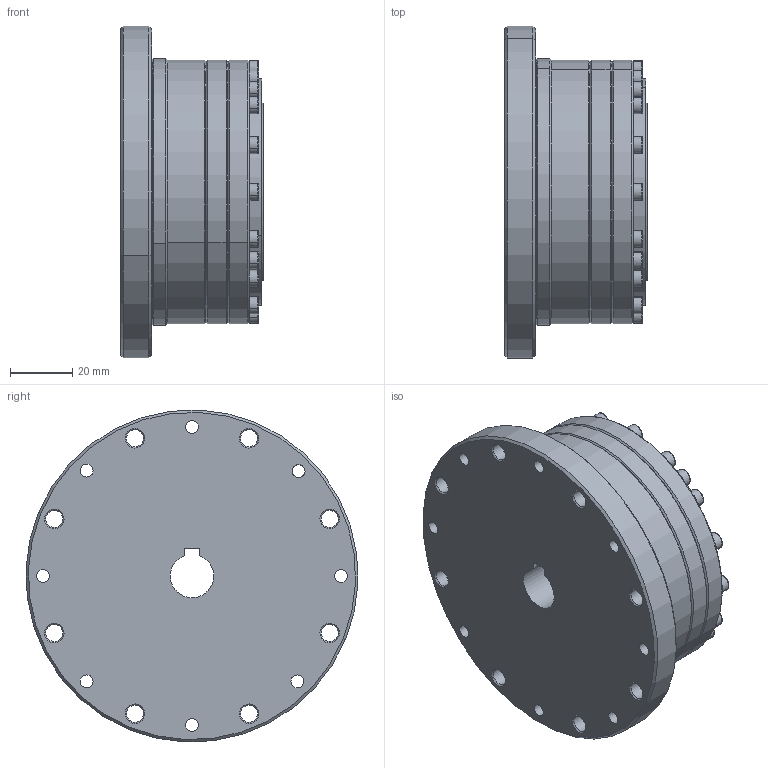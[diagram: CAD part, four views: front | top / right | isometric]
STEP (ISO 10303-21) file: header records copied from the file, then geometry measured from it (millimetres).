
FILE_DESCRIPTION(('STEP AP214'),'1');
FILE_NAME('cctmp_E27DC68C-0DAD-48FF-87FD-D8D48EA740E9_2025_03_06_11_18_22_0235_44768..stp','2025-03-06T10:18:22',('HIWIN GmbH'),('CADClick - www.CADClick.com'),'Spatial InterOp 3D',' ','unknown authorization');
FILE_SCHEMA(('AUTOMOTIVE_DESIGN'));
Length unit declared in the file: millimetre
Products named in the file (2): DSC-25-XX-PO-C_FILE; 2025_03_06_11_18_22_0219
Assembly tree (1 placements, depth 2):
  DSC-25-XX-PO-C_FILE
    2025_03_06_11_18_22_0219
Bounding box: 46 x 106.9 x 106.9 mm (x, y, z)
Volume: 270736.6 mm3; surface area: 39107.2 mm2
Topology: 1 solids, 5 shells, 643 faces, 1529 edges, 902 vertices
Faces by surface type: cone 221, plane 201, cylinder 165, bspline 56
Entity records: 25220 total; most frequent: CARTESIAN_POINT 5564, DIRECTION 3093, ORIENTED_EDGE 2976, EDGE_CURVE 1488, AXIS2_PLACEMENT_3D 1233, VERTEX_POINT 902, EDGE_LOOP 732, STYLED_ITEM 644
